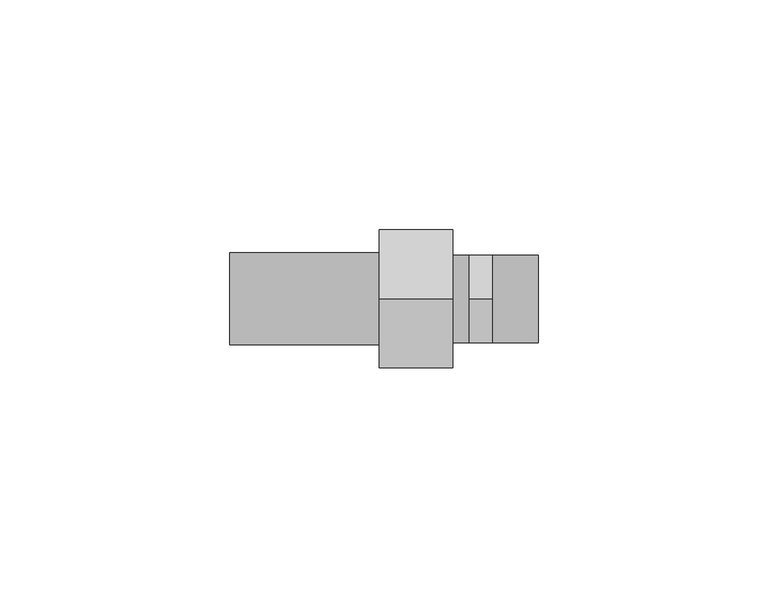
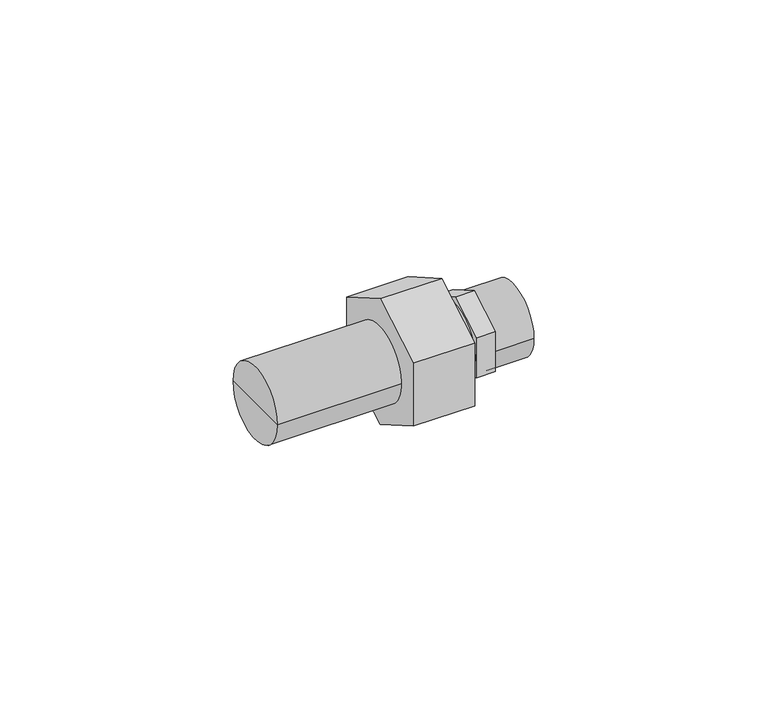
"""IFC4 building model written with IfcOpenShell, lengths in millimetres: pipe fitting geometry, KAN-therm PP śrubunek 3_4 : KAN-therm PP śrubunek 3_4."""

from ifc_helpers import new_model, si_unit, frame, origin, place, context, project, spatial, polyline, circle_curve, outline, extrude, source, transform, mapped, element, save
from ifc_brep_helpers import plane_surface, cylinder_surface, advanced_brep


def pipe_fitting_a18f5325(model_context):
    return source(origin(), model_context, "Body", "SolidModel", [
        extrude(outline(polyline([(0.0, -10.9985226), (-9.525, -5.4992613), (-9.525, 5.4992613), (0.0, 10.9985226), (9.525, 5.4992613), (9.525, -5.4992613), (0.0, -10.9985226)])), frame((37.5, 0.0, 0.0), z_axis=(1.0, 0.0, 0.0), x_axis=(0.0, 1.0, 0.0)), (0.0, 0.0, 1.0), 5.0),
        extrude(outline(polyline([(0.0, -17.3205081), (-15.0, -8.660254), (-15.0, 8.660254), (0.0, 17.3205081), (15.0, 8.660254), (15.0, -8.660254), (0.0, -17.3205081)])), frame((18.0, 0.0, 0.0), z_axis=(1.0, 0.0, 0.0), x_axis=(0.0, 1.0, 0.0)), (0.0, 0.0, 1.0), 16.0),
        advanced_brep(
        [(-14.5, 0.0, 0.0), (-14.5, 10.0, 0.0), (-14.5, -10.0, 0.0), (18.0, -10.0, 0.0), (18.0, 10.0, 0.0), (18.0, 0.0, 0.0)],
        [
            (0, 1),
            (1, 2, circle_curve(frame((-14.5, 0.0, 0.0), z_axis=(-1.0, 0.0, 0.0), x_axis=(0.0, 1.0, 0.0)), 10.0)),
            (2, 0),
            (2, 1, circle_curve(frame((-14.5, 0.0, 0.0), z_axis=(-1.0, 0.0, 0.0), x_axis=(0.0, 1.0, 0.0)), 10.0)),
            (3, 4, circle_curve(frame((18.0, 0.0, 0.0), z_axis=(1.0, 0.0, 0.0), x_axis=(0.0, 1.0, 0.0)), 10.0)),
            (4, 5),
            (5, 3),
            (4, 3, circle_curve(frame((18.0, 0.0, 0.0), z_axis=(1.0, 0.0, 0.0), x_axis=(0.0, 1.0, 0.0)), 10.0)),
            (1, 4),
            (3, 2),
        ],
        [
            plane_surface(frame((-14.5, 0.0, 0.0), z_axis=(-1.0, 0.0, 0.0), x_axis=(0.0, 1.0, 0.0))),
            plane_surface(frame((18.0, 0.0, 0.0), z_axis=(1.0, 0.0, 0.0), x_axis=(0.0, 1.0, 0.0))),
            cylinder_surface(frame((2000.8, 0.0, 0.0), z_axis=(-1.0, 0.0, 0.0), x_axis=(0.0, 1.0, 0.0)), 10.0),
        ],
        [
            (0, [[1, 2, 3]]),
            (0, [[-3, 4, -1]]),
            (1, [[5, 6, 7]]),
            (1, [[8, -7, -6]]),
            (2, [[-2, 9, -5, 10]]),
            (2, [[-4, -10, -8, -9]]),
        ],
    ),
        advanced_brep(
        [(52.5, -9.525, 0.0), (52.5, 9.525, 0.0), (52.5, 0.0, 0.0), (34.0, -9.525, 0.0), (34.0, 9.525, 0.0), (34.0, 0.0, 0.0)],
        [
            (0, 1, circle_curve(frame((52.5, 0.0, 0.0), z_axis=(1.0, 0.0, 0.0), x_axis=(0.0, 1.0, 0.0)), 9.525)),
            (1, 2),
            (2, 0),
            (1, 0, circle_curve(frame((52.5, 0.0, 0.0), z_axis=(1.0, 0.0, 0.0), x_axis=(0.0, 1.0, 0.0)), 9.525)),
            (3, 4, circle_curve(frame((34.0, 0.0, 0.0), z_axis=(1.0, 0.0, 0.0), x_axis=(0.0, 1.0, 0.0)), 9.525)),
            (4, 1),
            (0, 3),
            (4, 3, circle_curve(frame((34.0, 0.0, 0.0), z_axis=(1.0, 0.0, 0.0), x_axis=(0.0, 1.0, 0.0)), 9.525)),
            (5, 4),
            (3, 5),
        ],
        [
            plane_surface(frame((52.5, 0.0, 0.0), z_axis=(1.0, 0.0, 0.0), x_axis=(0.0, 1.0, 0.0))),
            cylinder_surface(frame((1366.242668, 0.0, 0.0), z_axis=(-1.0, 0.0, 0.0), x_axis=(0.0, 1.0, 0.0)), 9.525),
            plane_surface(frame((34.0, 0.0, 0.0), z_axis=(-1.0, 0.0, 0.0), x_axis=(0.0, 1.0, 0.0))),
        ],
        [
            (0, [[1, 2, 3]]),
            (0, [[4, -3, -2]]),
            (1, [[5, 6, -1, 7]]),
            (1, [[8, -7, -4, -6]]),
            (2, [[9, -5, 10]]),
            (2, [[-10, -8, -9]]),
        ],
    ),
    ])


if __name__ == "__main__":
    model = new_model("IFC4")
    model_context = context("Model", 3, world=origin())
    ifc_project = project(units=[si_unit("LENGTHUNIT", "METRE", prefix="MILLI")], contexts=[model_context])
    site = spatial("IfcSite", under=ifc_project)
    building = spatial("IfcBuilding", under=site)
    placement = place(None, origin())
    pipe_fitting_shape = pipe_fitting_a18f5325(model_context)
    element("IfcPipeFitting", 1, ObjectType="KAN-therm PP śrubunek 3_4 : KAN-therm PP śrubunek 3_4", at=placement, inside=building, context=model_context, shape_type="MappedRepresentation", body=[
        mapped(pipe_fitting_shape, transform((0.0, 0.0, 0.0), x_axis=(1.0, 0.0, 0.0), y_axis=(0.0, 1.0, 0.0), z_axis=(0.0, 0.0, 1.0))),
    ])
    save(model, "model.ifc")
